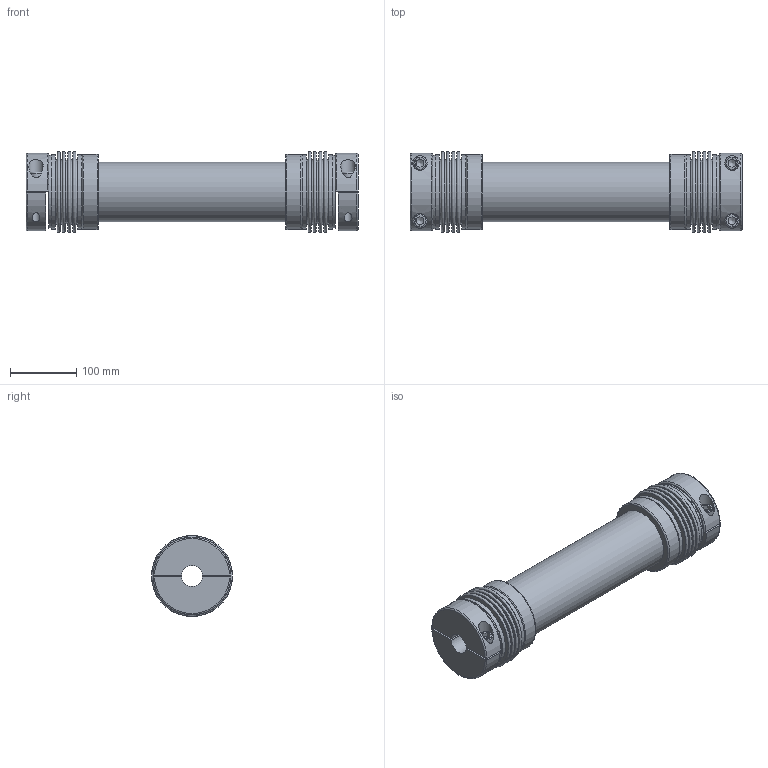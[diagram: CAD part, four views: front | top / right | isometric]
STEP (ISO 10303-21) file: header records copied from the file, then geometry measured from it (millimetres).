
FILE_DESCRIPTION( ( 'Unknown' ), '1' );
FILE_NAME( 'F:/JAKOB-STEP+IGES-Dateien/STEP-Dateien/WDE/WDE 500 - L=0,5m.stp', 'Unknown', ( 'Unknown' ), ( 'Unknown' ), 'PSStep 10.1', 'Unknown', ' ' );
FILE_SCHEMA( ( 'AUTOMOTIVE_DESIGN { 1 0 10303 214 1 1 1 1 }' ) );
Length unit declared in the file: millimetre
Products named in the file (1): WDE 500
Bounding box: 500 x 122 x 122 mm (x, y, z)
Volume: 1195246.3 mm3; surface area: 493878.2 mm2
Topology: 1 solids, 1 shells, 228 faces, 466 edges, 304 vertices
Faces by surface type: plane 130, torus 52, cylinder 42, cone 4
Full cylindrical faces by diameter (mm): 12 x4, 14 x4, 15 x4, 21 x4, 22 x4, 84 x1, 90 x1, 93 x2, 110 x4, 111.6 x4, 113 x2
Entity records: 8068 total; most frequent: CARTESIAN_POINT 1769, DIRECTION 978, ORIENTED_EDGE 708, AXIS2_PLACEMENT_3D 419, EDGE_LOOP 380, EDGE_CURVE 354, FACE_OUTER_BOUND 306, VERTEX_POINT 278
